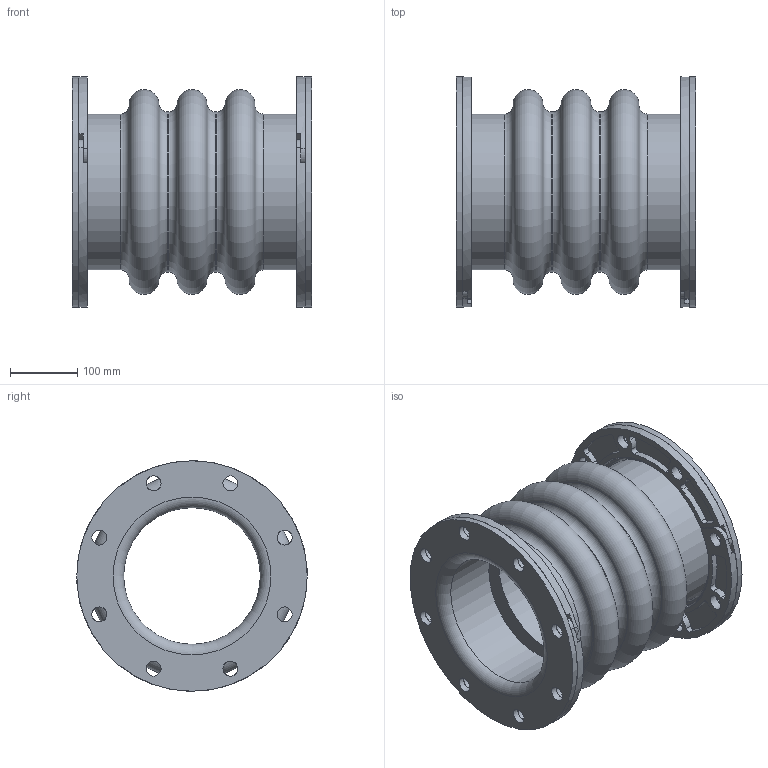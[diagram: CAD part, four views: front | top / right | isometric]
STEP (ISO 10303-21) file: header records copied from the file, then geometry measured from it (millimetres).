
FILE_DESCRIPTION(/* description */ (''),/* implementation_level */ '2;1');
FILE_NAME(/* name */ 'C:\001_Work\Designs\Mercer2014\MQInventor2014\RajR\500 Style\503\New folder\503 8IDx14FF.stp',/* time_stamp */ '2016-03-26T18:08:28-04:00',/* author */ ('rramoutar'),/* organization */ ('Mason Industries Inc.'),/* preprocessor_version */ 'ST-DEVELOPER v15.6',/* originating_system */ 'Autodesk Inventor 2015',/* authorisation */ '');
FILE_SCHEMA (('CONFIG_CONTROL_DESIGN'));
Length unit declared in the file: inch
Products named in the file (1): 503 8IDx14FF
Bounding box: 355.6 x 342.9 x 342.9 mm (x, y, z)
Volume: 7217122 mm3; surface area: 1257076.5 mm2
Topology: 3 solids, 3 shells, 278 faces, 740 edges, 482 vertices
Faces by surface type: cylinder 182, plane 60, torus 24, cone 12
Full cylindrical faces by diameter (mm): 22.225 x32, 203.2 x4, 231.775 x2, 238.125 x2, 244.475 x2, 342.9 x4
Entity records: 9060 total; most frequent: CARTESIAN_POINT 1659, DIRECTION 1618, ORIENTED_EDGE 1316, AXIS2_PLACEMENT_3D 697, EDGE_CURVE 658, VERTEX_POINT 474, EDGE_LOOP 436, CIRCLE 418
